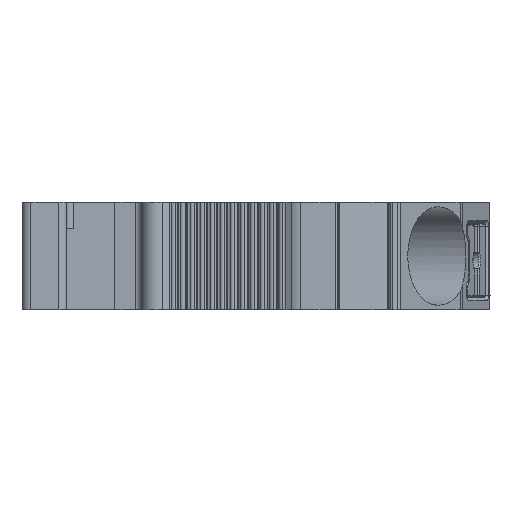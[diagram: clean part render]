
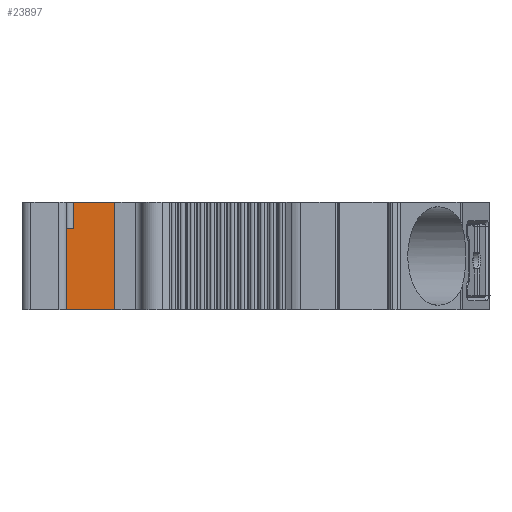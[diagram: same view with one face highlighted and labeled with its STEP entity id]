
A CAD part, left-side view. The second image highlights one B-rep face of the part: STEP entity #23897.
In plain terms, the highlighted planar face has unit normal (-1, 0, 0).
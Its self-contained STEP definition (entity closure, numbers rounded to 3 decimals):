
#2654=DIRECTION('',(0.,1.,0.));
#2655=VECTOR('',#2654,4.65);
#2656=CARTESIAN_POINT('',(3.75,43.268,
0.));
#2657=LINE('',#2656,#2655);
#3062=DIRECTION('',(0.,1.,0.));
#3063=VECTOR('',#3062,1.575);
#3064=CARTESIAN_POINT('',(3.75,50.643,
0.));
#3065=LINE('',#3064,#3063);
#3566=DIRECTION('',(0.,-1.,0.));
#3567=VECTOR('',#3566,6.625);
#3568=CARTESIAN_POINT('',(3.75,49.893,-12.15));
#3569=LINE('',#3568,#3567);
#9237=DIRECTION('',(0.,0.,-1.));
#9238=VECTOR('',#9237,3.);
#9239=CARTESIAN_POINT('',(3.75,47.918,
0.));
#9240=LINE('',#9239,#9238);
#9255=DIRECTION('',(0.,1.,0.));
#9256=VECTOR('',#9255,2.325);
#9257=CARTESIAN_POINT('',(3.75,49.893,-9.15));
#9258=LINE('',#9257,#9256);
#9259=DIRECTION('',(0.,0.,-1.));
#9260=VECTOR('',#9259,3.);
#9261=CARTESIAN_POINT('',(3.75,50.643,
0.));
#9262=LINE('',#9261,#9260);
#9263=DIRECTION('',(0.,-1.,0.));
#9264=VECTOR('',#9263,2.725);
#9265=CARTESIAN_POINT('',(3.75,50.643,-3.));
#9266=LINE('',#9265,#9264);
#9271=DIRECTION('',(0.,0.,-1.));
#9272=VECTOR('',#9271,3.);
#9273=CARTESIAN_POINT('',(3.75,49.893,-9.15));
#9274=LINE('',#9273,#9272);
#9311=DIRECTION('',(0.,0.,-1.));
#9312=VECTOR('',#9311,9.15);
#9313=CARTESIAN_POINT('',(3.75,52.218,
0.));
#9314=LINE('',#9313,#9312);
#9339=DIRECTION('',(0.,0.,1.));
#9340=VECTOR('',#9339,12.15);
#9341=CARTESIAN_POINT('',(3.75,43.268,-12.15));
#9342=LINE('',#9341,#9340);
#10857=CARTESIAN_POINT('',(3.75,49.893,
-12.15));
#10858=VERTEX_POINT('',#10857);
#10859=CARTESIAN_POINT('',(3.75,43.268,
-12.15));
#10860=VERTEX_POINT('',#10859);
#11441=CARTESIAN_POINT('',(3.75,43.268,
0.));
#11442=VERTEX_POINT('',#11441);
#11443=CARTESIAN_POINT('',(3.75,47.918,
0.));
#11444=VERTEX_POINT('',#11443);
#11602=CARTESIAN_POINT('',(3.75,52.218,
0.));
#11604=VERTEX_POINT('',#11602);
#11612=CARTESIAN_POINT('',(3.75,50.643,
0.));
#11613=VERTEX_POINT('',#11612);
#11654=CARTESIAN_POINT('',(3.75,47.918,
-3.));
#11655=VERTEX_POINT('',#11654);
#11656=CARTESIAN_POINT('',(3.75,50.643,
-3.));
#11657=VERTEX_POINT('',#11656);
#11660=CARTESIAN_POINT('',(3.75,49.893,
-9.15));
#11661=VERTEX_POINT('',#11660);
#11662=CARTESIAN_POINT('',(3.75,52.218,
-9.15));
#11663=VERTEX_POINT('',#11662);
#23875=CARTESIAN_POINT('',(3.75,43.015,
-12.483));
#23876=DIRECTION('',(1.,0.,0.));
#23877=DIRECTION('',(0.,-1.,0.));
#23878=AXIS2_PLACEMENT_3D('',#23875,#23876,#23877);
#23879=PLANE('',#23878);
#23880=ORIENTED_EDGE('',*,*,#16293,.F.);
#23882=ORIENTED_EDGE('',*,*,#23881,.F.);
#23884=ORIENTED_EDGE('',*,*,#23883,.T.);
#23886=ORIENTED_EDGE('',*,*,#23885,.F.);
#23887=ORIENTED_EDGE('',*,*,#16055,.F.);
#23889=ORIENTED_EDGE('',*,*,#23888,.T.);
#23890=ORIENTED_EDGE('',*,*,#23863,.T.);
#23891=ORIENTED_EDGE('',*,*,#23853,.F.);
#23892=ORIENTED_EDGE('',*,*,#15881,.F.);
#23894=ORIENTED_EDGE('',*,*,#23893,.F.);
#23895=EDGE_LOOP('',(#23880,#23882,#23884,#23886,#23887,#23889,#23890,#23891,
#23892,#23894));
#23896=FACE_OUTER_BOUND('',#23895,.F.);
#23897=ADVANCED_FACE('',(#23896),#23879,.F.);
#15881=EDGE_CURVE('',#11442,#11444,#2657,.T.);
#16055=EDGE_CURVE('',#11613,#11604,#3065,.T.);
#16293=EDGE_CURVE('',#10858,#10860,#3569,.T.);
#23853=EDGE_CURVE('',#11444,#11655,#9240,.T.);
#23863=EDGE_CURVE('',#11657,#11655,#9266,.T.);
#23881=EDGE_CURVE('',#11661,#10858,#9274,.T.);
#23883=EDGE_CURVE('',#11661,#11663,#9258,.T.);
#23885=EDGE_CURVE('',#11604,#11663,#9314,.T.);
#23888=EDGE_CURVE('',#11613,#11657,#9262,.T.);
#23893=EDGE_CURVE('',#10860,#11442,#9342,.T.);
